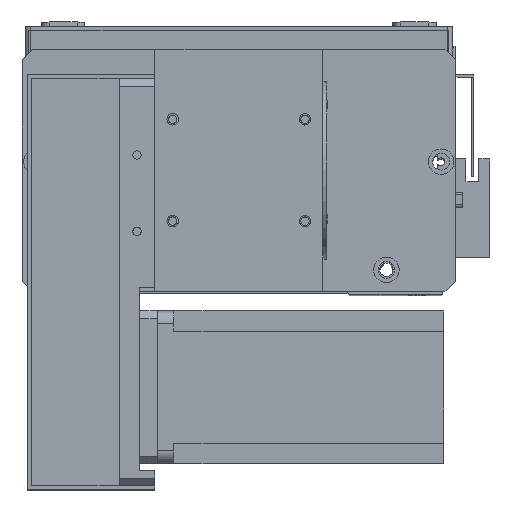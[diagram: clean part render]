
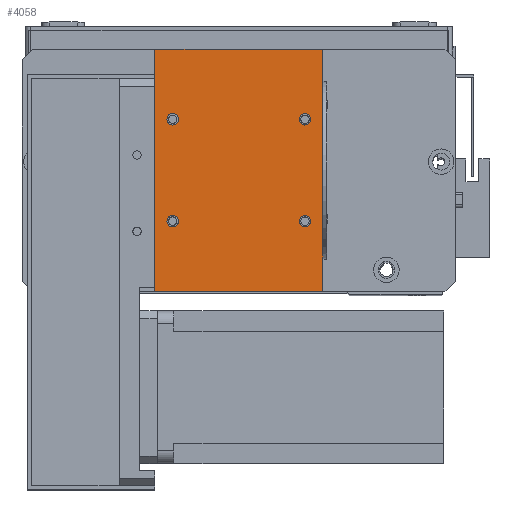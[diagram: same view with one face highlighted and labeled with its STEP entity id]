
A CAD part, top view. The second image highlights one B-rep face of the part: STEP entity #4058.
In plain terms, the highlighted planar face has unit normal (0, 0, 1).
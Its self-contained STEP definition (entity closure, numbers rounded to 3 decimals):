
#319 = DIRECTION ( 'NONE',  ( -1., 0., 0. ) ) ;
#404 = CIRCLE ( 'NONE', #3691, 2.25 ) ;
#684 = DIRECTION ( 'NONE',  ( 1., 0., 0. ) ) ;
#776 = VERTEX_POINT ( 'NONE', #3030 ) ;
#977 = VERTEX_POINT ( 'NONE', #7447 ) ;
#1109 = CARTESIAN_POINT ( 'NONE',  ( 59., 27.5, 2. ) ) ;
#1160 = DIRECTION ( 'NONE',  ( 1., 0., 0. ) ) ;
#2472 = VERTEX_POINT ( 'NONE', #16126 ) ;
#2865 = EDGE_CURVE ( 'NONE', #776, #14834, #8129, .T. ) ;
#3030 = CARTESIAN_POINT ( 'NONE',  ( 66., 95., 2. ) ) ;
#3220 = VERTEX_POINT ( 'NONE', #13911 ) ;
#3522 = DIRECTION ( 'NONE',  ( 1., 0., 0. ) ) ;
#3691 = AXIS2_PLACEMENT_3D ( 'NONE', #29017, #14906, #684 ) ;
#4058 = ADVANCED_FACE ( 'NONE', ( #4357, #30219, #28748, #22512, #16220 ), #28578, .F. ) ;
#4185 = ORIENTED_EDGE ( 'NONE', *, *, #25459, .F. ) ;
#4357 = FACE_BOUND ( 'NONE', #4401, .T. ) ;
#4401 = EDGE_LOOP ( 'NONE', ( #21701, #13837 ) ) ;
#4603 = LINE ( 'NONE', #17260, #21270 ) ;
#4997 = CARTESIAN_POINT ( 'NONE',  ( 7., 27.5, 2. ) ) ;
#5053 = DIRECTION ( 'NONE',  ( -1., 0., 0. ) ) ;
#5441 = DIRECTION ( 'NONE',  ( 0., -1., 0. ) ) ;
#5636 = DIRECTION ( 'NONE',  ( 0., 0., 1. ) ) ;
#5822 = CARTESIAN_POINT ( 'NONE',  ( 0., 95., 2. ) ) ;
#6001 = EDGE_LOOP ( 'NONE', ( #16812, #25483 ) ) ;
#6213 = ORIENTED_EDGE ( 'NONE', *, *, #16673, .T. ) ;
#6219 = DIRECTION ( 'NONE',  ( 0., 0., 1. ) ) ;
#6228 = DIRECTION ( 'NONE',  ( 0., 1., 0. ) ) ;
#6563 = CIRCLE ( 'NONE', #14939, 2.25 ) ;
#7389 = DIRECTION ( 'NONE',  ( 1., 0., 0. ) ) ;
#7447 = CARTESIAN_POINT ( 'NONE',  ( 4.75, 67.5, 2. ) ) ;
#7500 = EDGE_LOOP ( 'NONE', ( #15524, #25801, #6213, #17023 ) ) ;
#7849 = DIRECTION ( 'NONE',  ( 1., 0., 0. ) ) ;
#8129 = LINE ( 'NONE', #26288, #27728 ) ;
#8179 = EDGE_CURVE ( 'NONE', #20323, #23636, #23161, .T. ) ;
#9355 = AXIS2_PLACEMENT_3D ( 'NONE', #20416, #6219, #22792 ) ;
#9643 = CIRCLE ( 'NONE', #25159, 2.25 ) ;
#10042 = EDGE_CURVE ( 'NONE', #29886, #2472, #20461, .T. ) ;
#10087 = AXIS2_PLACEMENT_3D ( 'NONE', #4997, #21552, #7389 ) ;
#10517 = CARTESIAN_POINT ( 'NONE',  ( 61.25, 67.5, 2. ) ) ;
#10548 = VERTEX_POINT ( 'NONE', #11970 ) ;
#10809 = CARTESIAN_POINT ( 'NONE',  ( 7., 27.5, 2. ) ) ;
#10923 = ORIENTED_EDGE ( 'NONE', *, *, #17917, .F. ) ;
#10950 = LINE ( 'NONE', #22802, #29016 ) ;
#11574 = CARTESIAN_POINT ( 'NONE',  ( 4.75, 27.5, 2. ) ) ;
#11970 = CARTESIAN_POINT ( 'NONE',  ( 9.25, 27.5, 2. ) ) ;
#12286 = CARTESIAN_POINT ( 'NONE',  ( 7., 67.5, 2. ) ) ;
#12287 = CARTESIAN_POINT ( 'NONE',  ( 56.75, 27.5, 2. ) ) ;
#13196 = DIRECTION ( 'NONE',  ( 1., 0., 0. ) ) ;
#13837 = ORIENTED_EDGE ( 'NONE', *, *, #20342, .F. ) ;
#13911 = CARTESIAN_POINT ( 'NONE',  ( 9.25, 67.5, 2. ) ) ;
#14155 = VECTOR ( 'NONE', #7849, 1000. ) ;
#14688 = DIRECTION ( 'NONE',  ( 1., 0., 0. ) ) ;
#14834 = VERTEX_POINT ( 'NONE', #5822 ) ;
#14906 = DIRECTION ( 'NONE',  ( 0., 0., 1. ) ) ;
#14939 = AXIS2_PLACEMENT_3D ( 'NONE', #19828, #5636, #22209 ) ;
#15380 = DIRECTION ( 'NONE',  ( 0., 0., 1. ) ) ;
#15524 = ORIENTED_EDGE ( 'NONE', *, *, #21985, .T. ) ;
#15725 = CARTESIAN_POINT ( 'NONE',  ( 56.75, 67.5, 2. ) ) ;
#16025 = EDGE_LOOP ( 'NONE', ( #10923, #25211 ) ) ;
#16126 = CARTESIAN_POINT ( 'NONE',  ( 66., 0., 2. ) ) ;
#16220 = FACE_OUTER_BOUND ( 'NONE', #7500, .T. ) ;
#16595 = EDGE_CURVE ( 'NONE', #21758, #10548, #30483, .T. ) ;
#16673 = EDGE_CURVE ( 'NONE', #2472, #776, #10950, .T. ) ;
#16684 = CIRCLE ( 'NONE', #27743, 2.25 ) ;
#16696 = CARTESIAN_POINT ( 'NONE',  ( 61.25, 27.5, 2. ) ) ;
#16812 = ORIENTED_EDGE ( 'NONE', *, *, #8179, .F. ) ;
#16951 = CARTESIAN_POINT ( 'NONE',  ( 0., 0., 2. ) ) ;
#17023 = ORIENTED_EDGE ( 'NONE', *, *, #2865, .T. ) ;
#17260 = CARTESIAN_POINT ( 'NONE',  ( 0., 0., 2. ) ) ;
#17727 = DIRECTION ( 'NONE',  ( 0., 0., 1. ) ) ;
#17917 = EDGE_CURVE ( 'NONE', #23262, #23989, #16684, .T. ) ;
#18207 = CIRCLE ( 'NONE', #10087, 2.25 ) ;
#19231 = DIRECTION ( 'NONE',  ( 0., 0., -1. ) ) ;
#19828 = CARTESIAN_POINT ( 'NONE',  ( 59., 27.5, 2. ) ) ;
#20282 = EDGE_CURVE ( 'NONE', #23989, #23262, #6563, .T. ) ;
#20323 = VERTEX_POINT ( 'NONE', #10517 ) ;
#20342 = EDGE_CURVE ( 'NONE', #977, #3220, #29452, .T. ) ;
#20416 = CARTESIAN_POINT ( 'NONE',  ( 59., 67.5, 2. ) ) ;
#20461 = LINE ( 'NONE', #29001, #14155 ) ;
#21270 = VECTOR ( 'NONE', #5441, 1000. ) ;
#21552 = DIRECTION ( 'NONE',  ( 0., 0., 1. ) ) ;
#21701 = ORIENTED_EDGE ( 'NONE', *, *, #26557, .F. ) ;
#21758 = VERTEX_POINT ( 'NONE', #11574 ) ;
#21985 = EDGE_CURVE ( 'NONE', #14834, #29886, #4603, .T. ) ;
#22209 = DIRECTION ( 'NONE',  ( 1., 0., 0. ) ) ;
#22512 = FACE_BOUND ( 'NONE', #30302, .T. ) ;
#22792 = DIRECTION ( 'NONE',  ( 1., 0., 0. ) ) ;
#22802 = CARTESIAN_POINT ( 'NONE',  ( 66., 0., 2. ) ) ;
#23161 = CIRCLE ( 'NONE', #9355, 2.25 ) ;
#23262 = VERTEX_POINT ( 'NONE', #16696 ) ;
#23398 = EDGE_CURVE ( 'NONE', #23636, #20323, #404, .T. ) ;
#23636 = VERTEX_POINT ( 'NONE', #15725 ) ;
#23989 = VERTEX_POINT ( 'NONE', #12287 ) ;
#24438 = AXIS2_PLACEMENT_3D ( 'NONE', #29478, #15380, #1160 ) ;
#24465 = AXIS2_PLACEMENT_3D ( 'NONE', #26233, #19231, #5053 ) ;
#25159 = AXIS2_PLACEMENT_3D ( 'NONE', #12286, #28786, #14688 ) ;
#25211 = ORIENTED_EDGE ( 'NONE', *, *, #20282, .F. ) ;
#25459 = EDGE_CURVE ( 'NONE', #10548, #21758, #18207, .T. ) ;
#25483 = ORIENTED_EDGE ( 'NONE', *, *, #23398, .F. ) ;
#25622 = ORIENTED_EDGE ( 'NONE', *, *, #16595, .F. ) ;
#25801 = ORIENTED_EDGE ( 'NONE', *, *, #10042, .T. ) ;
#25938 = AXIS2_PLACEMENT_3D ( 'NONE', #10809, #27318, #13196 ) ;
#26233 = CARTESIAN_POINT ( 'NONE',  ( 0., 0., 2. ) ) ;
#26288 = CARTESIAN_POINT ( 'NONE',  ( 0., 95., 2. ) ) ;
#26557 = EDGE_CURVE ( 'NONE', #3220, #977, #9643, .T. ) ;
#27318 = DIRECTION ( 'NONE',  ( 0., 0., 1. ) ) ;
#27728 = VECTOR ( 'NONE', #319, 1000. ) ;
#27743 = AXIS2_PLACEMENT_3D ( 'NONE', #1109, #17727, #3522 ) ;
#28578 = PLANE ( 'NONE',  #24465 ) ;
#28748 = FACE_BOUND ( 'NONE', #16025, .T. ) ;
#28786 = DIRECTION ( 'NONE',  ( 0., 0., 1. ) ) ;
#29001 = CARTESIAN_POINT ( 'NONE',  ( 0., 0., 2. ) ) ;
#29016 = VECTOR ( 'NONE', #6228, 1000. ) ;
#29017 = CARTESIAN_POINT ( 'NONE',  ( 59., 67.5, 2. ) ) ;
#29452 = CIRCLE ( 'NONE', #24438, 2.25 ) ;
#29478 = CARTESIAN_POINT ( 'NONE',  ( 7., 67.5, 2. ) ) ;
#29886 = VERTEX_POINT ( 'NONE', #16951 ) ;
#30219 = FACE_BOUND ( 'NONE', #6001, .T. ) ;
#30302 = EDGE_LOOP ( 'NONE', ( #4185, #25622 ) ) ;
#30483 = CIRCLE ( 'NONE', #25938, 2.25 ) ;
